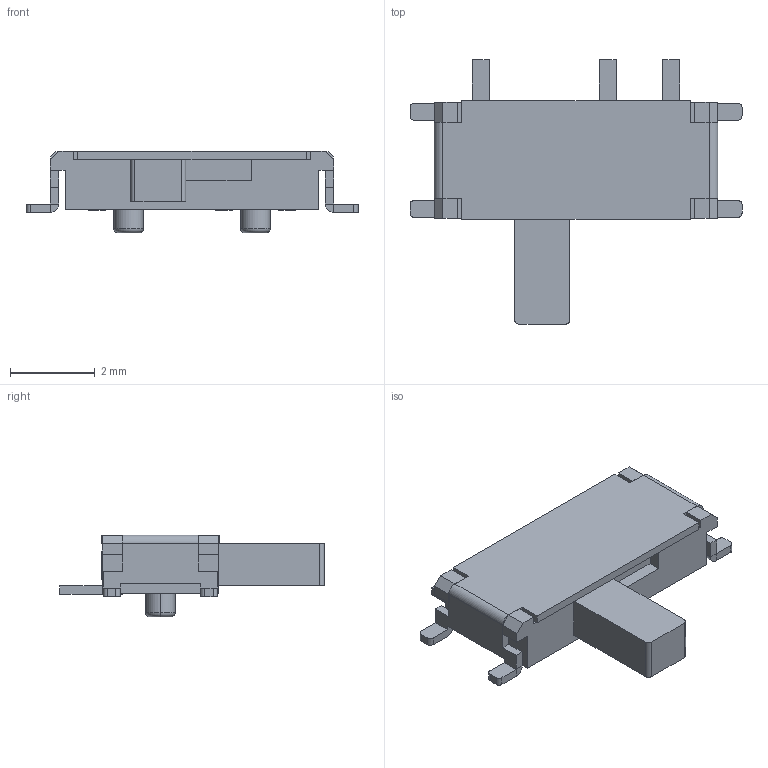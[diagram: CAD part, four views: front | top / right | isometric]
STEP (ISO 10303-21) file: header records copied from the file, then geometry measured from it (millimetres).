
FILE_DESCRIPTION (( 'STEP AP214' ), '1' );
FILE_NAME ('SW-SMD_MSK12C02G25-B.STEP', '2024-08-28T03:13:45', ( 'PC' ), ( 'Microsoft' ), 'SwSTEP 2.0', 'SolidWorks 2020', '' );
FILE_SCHEMA (( 'AUTOMOTIVE_DESIGN' ));
Length unit declared in the file: millimetre
Products named in the file (1): SW-SMD_MSK12C02G25-B
Bounding box: 7.85 x 6.25 x 1.93 mm (x, y, z)
Volume: 28 mm3; surface area: 126.4 mm2
Topology: 2 solids, 2 shells, 369 faces, 996 edges, 652 vertices
Faces by surface type: plane 238, bspline 98, cylinder 29, torus 4
Entity records: 16062 total; most frequent: CARTESIAN_POINT 3324, ORIENTED_EDGE 1992, DIRECTION 1406, EDGE_CURVE 996, VECTOR 730, LINE 730, VERTEX_POINT 652, EDGE_LOOP 390
